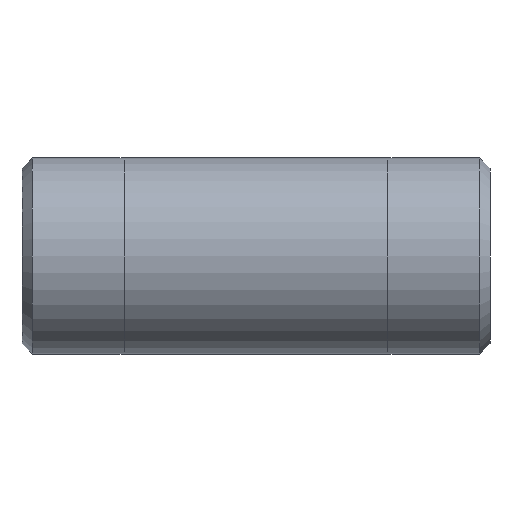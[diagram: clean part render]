
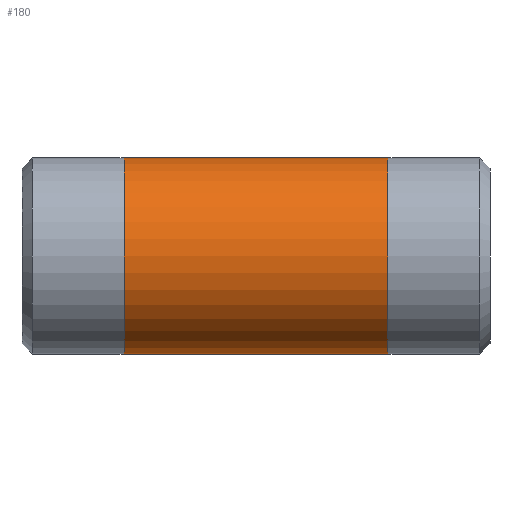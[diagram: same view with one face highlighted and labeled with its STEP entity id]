
A CAD part, left-side view. The second image highlights one B-rep face of the part: STEP entity #180.
In plain terms, the highlighted cylindrical face has radius 13.335 mm (diameter 26.67 mm), a full revolution.
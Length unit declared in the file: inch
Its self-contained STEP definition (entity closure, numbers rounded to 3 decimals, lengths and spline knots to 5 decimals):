
#25=CYLINDRICAL_SURFACE('',#220,0.525);
#34=FACE_OUTER_BOUND('',#47,.T.);
#47=EDGE_LOOP('',(#155,#156,#157,#158,#159,#160));
#55=LINE('',#338,#61);
#61=VECTOR('',#283,0.525);
#77=CIRCLE('',#218,0.525);
#78=CIRCLE('',#219,0.525);
#79=CIRCLE('',#221,0.525);
#80=CIRCLE('',#222,0.525);
#95=VERTEX_POINT('',#329);
#96=VERTEX_POINT('',#330);
#97=VERTEX_POINT('',#334);
#98=VERTEX_POINT('',#335);
#117=EDGE_CURVE('',#95,#96,#77,.T.);
#118=EDGE_CURVE('',#96,#95,#78,.T.);
#119=EDGE_CURVE('',#97,#98,#79,.T.);
#120=EDGE_CURVE('',#98,#97,#80,.T.);
#121=EDGE_CURVE('',#98,#96,#55,.T.);
#155=ORIENTED_EDGE('',*,*,#119,.F.);
#156=ORIENTED_EDGE('',*,*,#120,.F.);
#157=ORIENTED_EDGE('',*,*,#121,.T.);
#158=ORIENTED_EDGE('',*,*,#118,.T.);
#159=ORIENTED_EDGE('',*,*,#117,.T.);
#160=ORIENTED_EDGE('',*,*,#121,.F.);
#180=ADVANCED_FACE('',(#34),#25,.T.);
#218=AXIS2_PLACEMENT_3D('',#331,#273,#274);
#219=AXIS2_PLACEMENT_3D('',#332,#275,#276);
#220=AXIS2_PLACEMENT_3D('',#333,#277,#278);
#221=AXIS2_PLACEMENT_3D('',#336,#279,#280);
#222=AXIS2_PLACEMENT_3D('',#337,#281,#282);
#273=DIRECTION('center_axis',(0.,-1.,0.));
#274=DIRECTION('ref_axis',(1.,0.,0.));
#275=DIRECTION('center_axis',(0.,-1.,0.));
#276=DIRECTION('ref_axis',(1.,0.,0.));
#277=DIRECTION('center_axis',(0.,-1.,0.));
#278=DIRECTION('ref_axis',(0.,0.,-1.));
#279=DIRECTION('center_axis',(0.,-1.,0.));
#280=DIRECTION('ref_axis',(1.,0.,0.));
#281=DIRECTION('center_axis',(0.,-1.,0.));
#282=DIRECTION('ref_axis',(1.,0.,0.));
#283=DIRECTION('',(0.,1.,0.));
#329=CARTESIAN_POINT('',(0.,1.955,-0.525));
#330=CARTESIAN_POINT('',(0.,1.955,0.525));
#331=CARTESIAN_POINT('Origin',(0.,1.955,0.));
#332=CARTESIAN_POINT('Origin',(0.,1.955,0.));
#333=CARTESIAN_POINT('Origin',(0.,1.25,0.));
#334=CARTESIAN_POINT('',(0.,0.545,-0.525));
#335=CARTESIAN_POINT('',(0.,0.545,0.525));
#336=CARTESIAN_POINT('Origin',(0.,0.545,0.));
#337=CARTESIAN_POINT('Origin',(0.,0.545,0.));
#338=CARTESIAN_POINT('',(0.,1.25,0.525));
